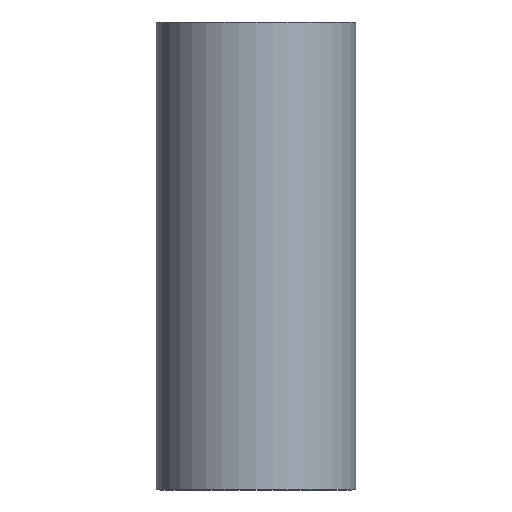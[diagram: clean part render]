
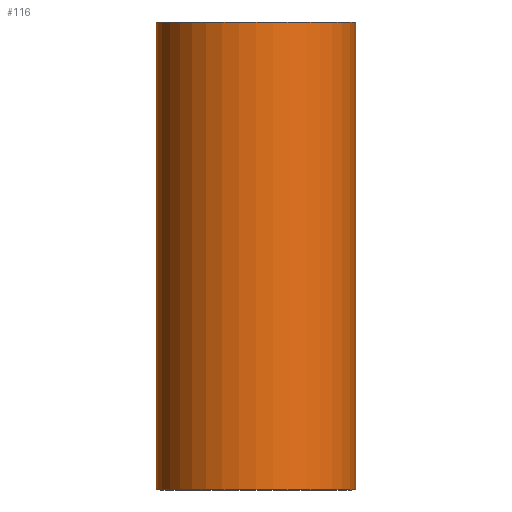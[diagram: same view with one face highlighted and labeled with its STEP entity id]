
A CAD part, left-side view. The second image highlights one B-rep face of the part: STEP entity #116.
In plain terms, the highlighted cylindrical face has radius 80 mm (diameter 160 mm), a full revolution.
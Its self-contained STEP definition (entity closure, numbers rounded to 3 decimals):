
#23=FACE_BOUND('',#51,.T.);
#24=FACE_BOUND('',#52,.T.);
#30=CIRCLE('',#151,80.);
#31=CIRCLE('',#153,80.);
#37=FACE_OUTER_BOUND('',#50,.T.);
#50=EDGE_LOOP('',(#93));
#51=EDGE_LOOP('',(#94,#95));
#52=EDGE_LOOP('',(#96));
#57=ELLIPSE('',#146,209.05,80.);
#58=ELLIPSE('',#147,86.591,80.);
#64=VERTEX_POINT('',#205);
#65=VERTEX_POINT('',#206);
#67=VERTEX_POINT('',#213);
#68=VERTEX_POINT('',#216);
#74=EDGE_CURVE('',#64,#65,#57,.T.);
#75=EDGE_CURVE('',#65,#64,#58,.T.);
#77=EDGE_CURVE('',#67,#67,#30,.T.);
#78=EDGE_CURVE('',#68,#68,#31,.T.);
#93=ORIENTED_EDGE('',*,*,#77,.T.);
#94=ORIENTED_EDGE('',*,*,#75,.T.);
#95=ORIENTED_EDGE('',*,*,#74,.T.);
#96=ORIENTED_EDGE('',*,*,#78,.F.);
#102=CYLINDRICAL_SURFACE('',#152,80.);
#116=ADVANCED_FACE('',(#37,#23,#24),#102,.T.);
#146=AXIS2_PLACEMENT_3D('',#207,#173,#174);
#147=AXIS2_PLACEMENT_3D('',#208,#175,#176);
#151=AXIS2_PLACEMENT_3D('',#214,#183,#184);
#152=AXIS2_PLACEMENT_3D('',#215,#185,#186);
#153=AXIS2_PLACEMENT_3D('',#217,#187,#188);
#173=DIRECTION('center_axis',(-0.924,0.,0.383));
#174=DIRECTION('ref_axis',(-0.383,0.,-0.924));
#175=DIRECTION('center_axis',(-0.383,0.,-0.924));
#176=DIRECTION('ref_axis',(0.924,0.,-0.383));
#183=DIRECTION('center_axis',(0.,0.,-1.));
#184=DIRECTION('ref_axis',(1.,0.,0.));
#185=DIRECTION('center_axis',(0.,0.,-1.));
#186=DIRECTION('ref_axis',(-1.,0.,0.));
#187=DIRECTION('center_axis',(0.,0.,-1.));
#188=DIRECTION('ref_axis',(1.,0.,0.));
#205=CARTESIAN_POINT('',(0.,-80.,125.));
#206=CARTESIAN_POINT('',(0.,80.,125.));
#207=CARTESIAN_POINT('Origin',(0.,0.,125.));
#208=CARTESIAN_POINT('Origin',(0.,0.,125.));
#213=CARTESIAN_POINT('',(-80.,0.,375.));
#214=CARTESIAN_POINT('Origin',(0.,0.,375.));
#215=CARTESIAN_POINT('Origin',(0.,0.,187.5));
#216=CARTESIAN_POINT('',(-80.,0.,0.));
#217=CARTESIAN_POINT('Origin',(0.,0.,0.));
